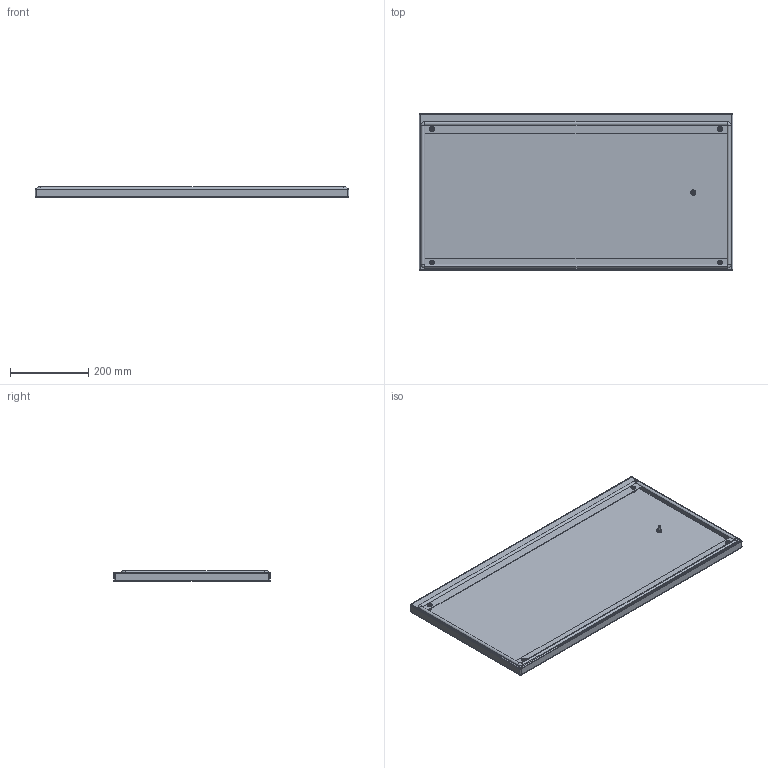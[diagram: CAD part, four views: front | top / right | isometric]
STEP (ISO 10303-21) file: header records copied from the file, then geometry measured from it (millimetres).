
FILE_DESCRIPTION (( 'STEP AP203' ), '1' );
FILE_NAME ('R 80.40 C Ïàíåëü êîíöåâàÿ íèæíåé ÷àñòè.STEP', '2013-01-14T08:29:46', ( 'Àëåêñàíäð' ), ( 'Ïðîâåíòî' ), 'SwSTEP 2.0', 'SolidWorks 2012', '' );
FILE_SCHEMA (( 'CONFIG_CONTROL_DESIGN' ));
Length unit declared in the file: millimetre
Products named in the file (1): R 80.40 C Ïàíåëü êîíöåâàÿ íèæíåé ÷àñòè
Bounding box: 800 x 400 x 27 mm (x, y, z)
Volume: 718027.9 mm3; surface area: 895595.7 mm2
Topology: 1 solids, 1 shells, 151 faces, 333 edges, 200 vertices
Faces by surface type: cylinder 63, plane 40, torus 26, cone 14, sphere 8
Entity records: 4296 total; most frequent: DIRECTION 825, CARTESIAN_POINT 749, ORIENTED_EDGE 650, AXIS2_PLACEMENT_3D 352, EDGE_CURVE 325, CIRCLE 200, VERTEX_POINT 200, EDGE_LOOP 183
